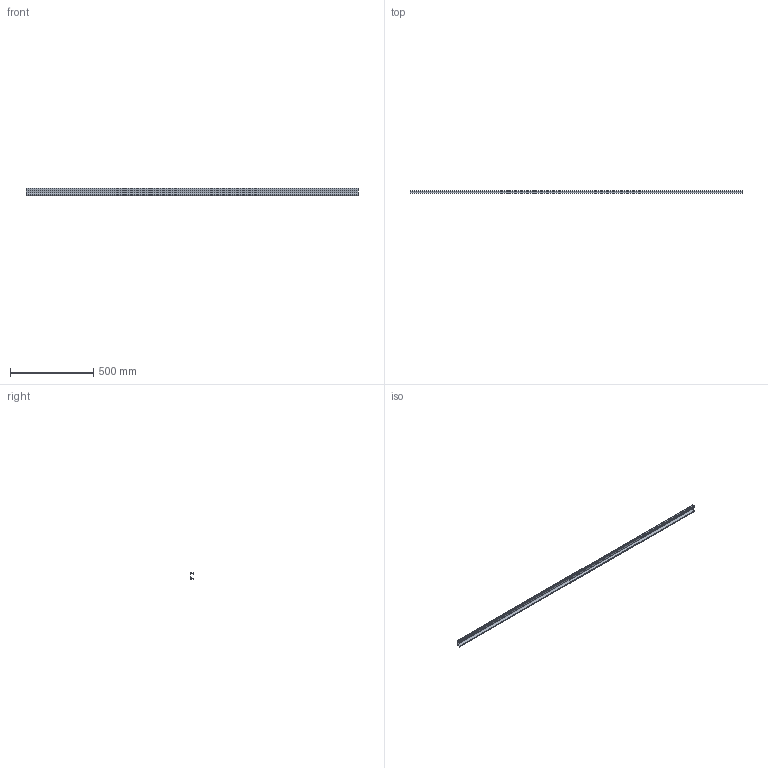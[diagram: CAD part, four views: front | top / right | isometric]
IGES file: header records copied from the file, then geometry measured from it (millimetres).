
Start section: Data from Parasolid IGES Translator 15.0.47, Copyright(c) 2006 Siemens P LM Software. All Rights Reserved.
Global section: file name: 115314.igs; native system:  By UGS Corp.; preprocessor: XPlus GENERIC/IGES 3.0; author: Noname; organization: Noname; date: 20140122.180928; units: millimetre
Bounding box: 2000 x 17.5 x 43 mm (x, y, z)
Surface area: 318840.6 mm2 (no closed solid volume)
Topology: 0 solids, 0 shells, 23 faces, 126 edges, 126 vertices
Faces by surface type: extrusion 18, revolution 5
